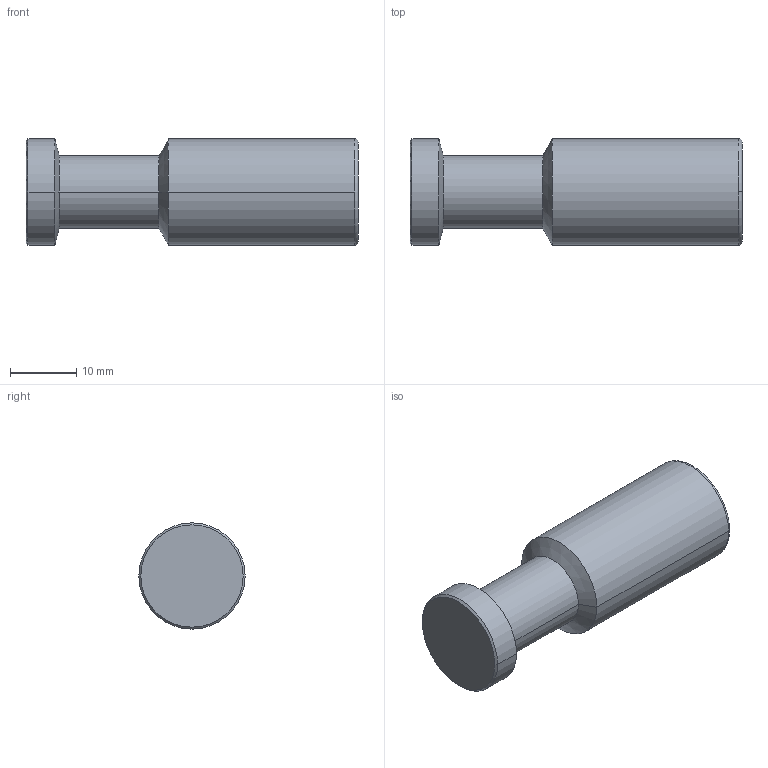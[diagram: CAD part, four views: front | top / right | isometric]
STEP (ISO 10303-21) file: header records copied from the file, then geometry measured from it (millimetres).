
FILE_DESCRIPTION (( 'STEP AP203' ), '1' );
FILE_NAME ('FP16-00.STEP', '2020-05-13T10:50:20', ( '' ), ( '' ), 'SwSTEP 2.0', 'SolidWorks 2019', '' );
FILE_SCHEMA (( 'CONFIG_CONTROL_DESIGN' ));
Length unit declared in the file: millimetre
Products named in the file (1): FP16-00
Bounding box: 50 x 16 x 16 mm (x, y, z)
Volume: 8338.8 mm3; surface area: 2785.9 mm2
Topology: 1 solids, 1 shells, 16 faces, 32 edges, 18 vertices
Faces by surface type: cylinder 6, cone 6, torus 2, plane 2
Entity records: 493 total; most frequent: DIRECTION 86, CARTESIAN_POINT 67, ORIENTED_EDGE 64, AXIS2_PLACEMENT_3D 37, EDGE_CURVE 32, CIRCLE 20, VERTEX_POINT 18, EDGE_LOOP 16
